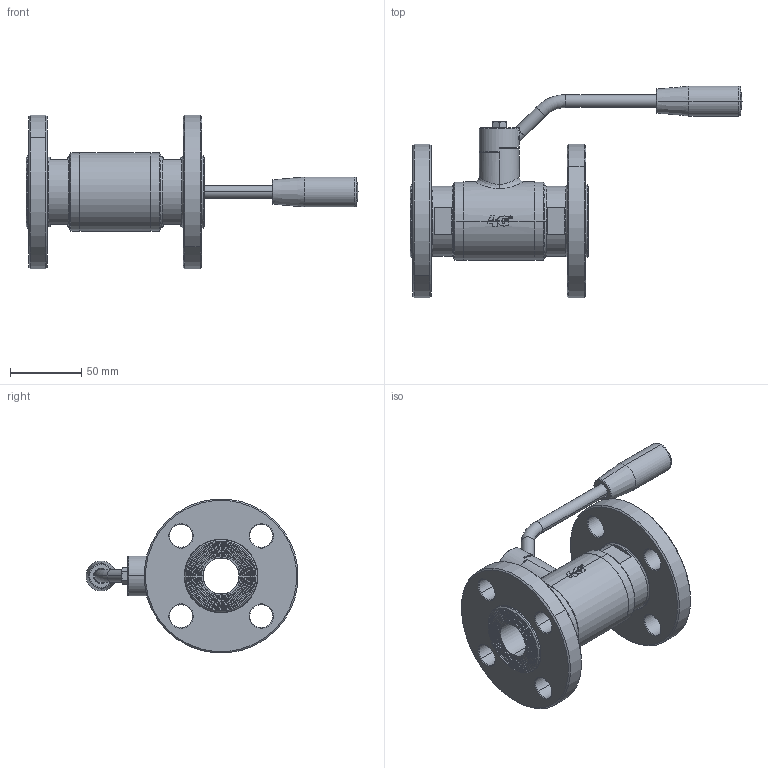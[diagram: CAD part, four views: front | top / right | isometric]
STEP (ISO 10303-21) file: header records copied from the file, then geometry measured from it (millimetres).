
FILE_DESCRIPTION((''),'2;1');
FILE_NAME('PARTE_VUOTA','2026-05-06T16:14:03',('tecnico2'),('CDM Tecnoconsulting'),'CREO PARAMETRIC BY PTC INC, 2024063','CREO PARAMETRIC BY PTC INC, 2024063','');
FILE_SCHEMA(('CONFIG_CONTROL_DESIGN','SHAPE_APPEARANCE_LAYERS_GROUPS'));
Products named in the file (1): PARTE_VUOTA
Bounding box: 232.5 x 148.34 x 107.59 mm (x, y, z)
Volume: 416529.8 mm3; surface area: 97029 mm2
Topology: 1 solids, 6 shells, 1031 faces, 2794 edges, 1797 vertices
Faces by surface type: plane 459, extrusion 166, cylinder 156, cone 148, bspline 46, torus 46, sphere 10
Entity records: 50715 total; most frequent: CARTESIAN_POINT 17070, ORIENTED_EDGE 5538, DIRECTION 4533, PRESENTATION_STYLE_ASSIGNMENT 2798, STYLED_ITEM 2774, CURVE_STYLE 2772, EDGE_CURVE 2772, VERTEX_POINT 1797
